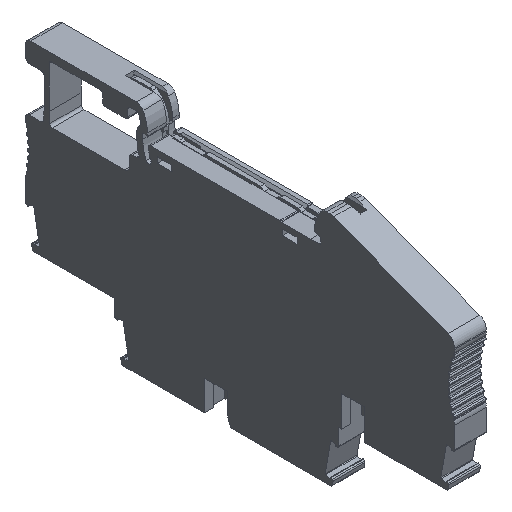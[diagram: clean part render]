
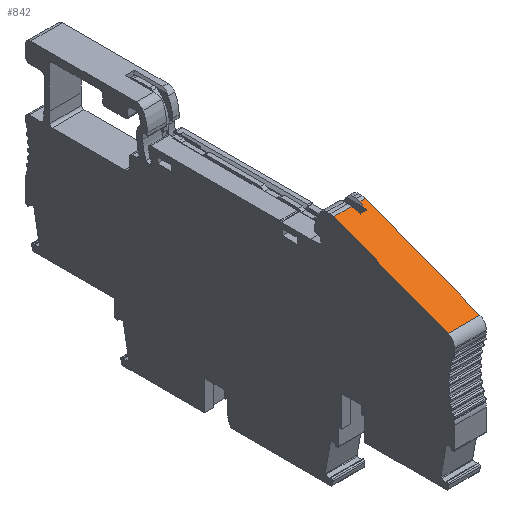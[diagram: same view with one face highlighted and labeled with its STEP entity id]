
A CAD part, isometric view. The second image highlights one B-rep face of the part: STEP entity #842.
In plain terms, the highlighted planar face has unit normal (0, -0.359, 0.933).
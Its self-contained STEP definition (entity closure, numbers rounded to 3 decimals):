
#842=ADVANCED_FACE('',(#2680),#1890,.F.);
#1890=PLANE('',#23007);
#2680=FACE_OUTER_BOUND('',#3829,.T.);
#3829=EDGE_LOOP('',(#7244,#7245,#7246,#7247,#7248,#7249,#7250,#7251,#7252,
#7253));
#7244=ORIENTED_EDGE('',*,*,#15496,.F.);
#7245=ORIENTED_EDGE('',*,*,#14754,.F.);
#7246=ORIENTED_EDGE('',*,*,#15497,.F.);
#7247=ORIENTED_EDGE('',*,*,#15498,.F.);
#7248=ORIENTED_EDGE('',*,*,#15499,.F.);
#7249=ORIENTED_EDGE('',*,*,#15500,.F.);
#7250=ORIENTED_EDGE('',*,*,#15501,.F.);
#7251=ORIENTED_EDGE('',*,*,#15502,.F.);
#7252=ORIENTED_EDGE('',*,*,#15503,.F.);
#7253=ORIENTED_EDGE('',*,*,#15076,.F.);
#12571=VERTEX_POINT('',#31229);
#12572=VERTEX_POINT('',#31231);
#12888=VERTEX_POINT('',#31960);
#12889=VERTEX_POINT('',#31962);
#13139=VERTEX_POINT('',#33010);
#13140=VERTEX_POINT('',#33012);
#13141=VERTEX_POINT('',#33014);
#13142=VERTEX_POINT('',#33016);
#13143=VERTEX_POINT('',#33018);
#13144=VERTEX_POINT('',#33020);
#14754=EDGE_CURVE('',#12571,#12572,#17951,.T.);
#15076=EDGE_CURVE('',#12888,#12889,#18063,.T.);
#15496=EDGE_CURVE('',#12572,#12888,#18337,.T.);
#15497=EDGE_CURVE('',#13139,#12571,#18338,.T.);
#15498=EDGE_CURVE('',#13140,#13139,#18339,.T.);
#15499=EDGE_CURVE('',#13141,#13140,#18340,.T.);
#15500=EDGE_CURVE('',#13142,#13141,#18341,.T.);
#15501=EDGE_CURVE('',#13143,#13142,#18342,.T.);
#15502=EDGE_CURVE('',#13144,#13143,#18343,.T.);
#15503=EDGE_CURVE('',#12889,#13144,#18344,.T.);
#17951=LINE('',#31230,#20244);
#18063=LINE('',#31961,#20356);
#18337=LINE('',#33007,#20630);
#18338=LINE('',#33009,#20631);
#18339=LINE('',#33011,#20632);
#18340=LINE('',#33013,#20633);
#18341=LINE('',#33015,#20634);
#18342=LINE('',#33017,#20635);
#18343=LINE('',#33019,#20636);
#18344=LINE('',#33021,#20637);
#20244=VECTOR('',#24756,1.);
#20356=VECTOR('',#25280,1.);
#20630=VECTOR('',#26112,1.);
#20631=VECTOR('',#26115,1.);
#20632=VECTOR('',#26116,1.);
#20633=VECTOR('',#26117,1.);
#20634=VECTOR('',#26118,1.);
#20635=VECTOR('',#26119,1.);
#20636=VECTOR('',#26120,1.);
#20637=VECTOR('',#26121,1.);
#23007=AXIS2_PLACEMENT_3D('',#33022,#26122,#26123);
#24756=DIRECTION('',(0.,-0.933,-0.359));
#25280=DIRECTION('',(0.,0.933,0.359));
#26112=DIRECTION('',(-1.,0.,0.));
#26115=DIRECTION('',(1.,0.,0.));
#26116=DIRECTION('',(0.21,0.912,0.351));
#26117=DIRECTION('',(0.,0.933,0.359));
#26118=DIRECTION('',(1.,0.,0.));
#26119=DIRECTION('',(0.,-0.933,-0.359));
#26120=DIRECTION('',(0.21,-0.912,-0.351));
#26121=DIRECTION('',(1.,0.,0.));
#26122=DIRECTION('',(0.,0.359,-0.933));
#26123=DIRECTION('',(0.,-0.933,-0.359));
#31229=CARTESIAN_POINT('',(0.,-131.094,45.717));
#31230=CARTESIAN_POINT('',(0.,-131.094,45.717));
#31231=CARTESIAN_POINT('',(0.,-153.394,37.143));
#31960=CARTESIAN_POINT('',(-6.2,-153.394,37.143));
#31961=CARTESIAN_POINT('',(-6.2,-153.394,37.143));
#31962=CARTESIAN_POINT('',(-6.2,-131.094,45.717));
#33007=CARTESIAN_POINT('',(0.,-153.394,37.143));
#33009=CARTESIAN_POINT('',(-1.08,-131.094,45.717));
#33010=CARTESIAN_POINT('',(-1.08,-131.094,45.717));
#33011=CARTESIAN_POINT('',(-1.3,-132.048,45.35));
#33012=CARTESIAN_POINT('',(-1.3,-132.048,45.35));
#33013=CARTESIAN_POINT('',(-1.3,-132.576,45.147));
#33014=CARTESIAN_POINT('',(-1.3,-132.576,45.147));
#33015=CARTESIAN_POINT('',(-2.5,-132.576,45.147));
#33016=CARTESIAN_POINT('',(-2.5,-132.576,45.147));
#33017=CARTESIAN_POINT('',(-2.5,-132.048,45.35));
#33018=CARTESIAN_POINT('',(-2.5,-132.048,45.35));
#33019=CARTESIAN_POINT('',(-2.72,-131.094,45.717));
#33020=CARTESIAN_POINT('',(-2.72,-131.094,45.717));
#33021=CARTESIAN_POINT('',(-6.2,-131.094,45.717));
#33022=CARTESIAN_POINT('',(0.,-154.676,36.65));
